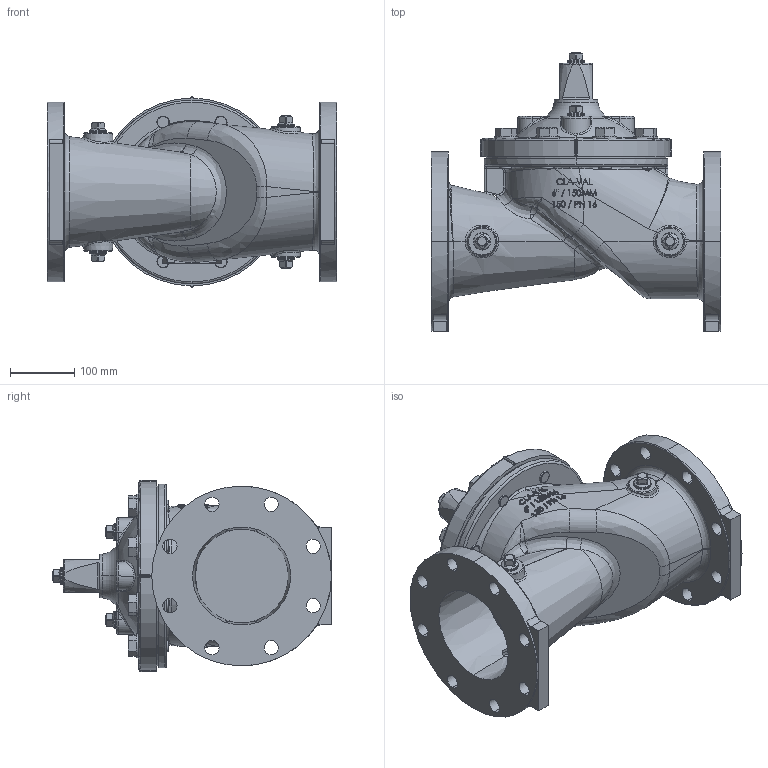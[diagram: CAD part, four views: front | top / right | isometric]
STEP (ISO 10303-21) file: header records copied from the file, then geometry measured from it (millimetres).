
FILE_DESCRIPTION (( 'STEP AP203' ), '1' );
FILE_NAME ('6in 100-20 150AG.STEP', '2018-01-17T17:44:15', ( '' ), ( '' ), 'SwSTEP 2.0', 'SolidWorks 2017', '' );
FILE_SCHEMA (( 'CONFIG_CONTROL_DESIGN' ));
Length unit declared in the file: inch
Products named in the file (6): Bolt .750-10 UNC  (67609)_2   67609-05H; WASHER, PLAIN FLAT FOR .750 SCREW (67753)_.750N   67753-04G; .750 NPT PIPE PLUG (67660)_18-8 SST; 6in 100-20 150AG; 6in Body ReGl150A STD (BLUE)_Default 150 FLAT FACE; 4in Cover (no core)_Default DI
Assembly tree (25 placements, depth 2):
  6in 100-20 150AG
    6in Body ReGl150A STD (BLUE)_Default 150 FLAT FACE
    4in Cover (no core)_Default DI
    Bolt .750-10 UNC  (67609)_2   67609-05H  x8
    WASHER, PLAIN FLAT FOR .750 SCREW (67753)_.750N   67753-04G  x8
    .750 NPT PIPE PLUG (67660)_18-8 SST  x7
Bounding box: 450.85 x 433.7 x 297.64 mm (x, y, z)
Volume: 14000890.8 mm3; surface area: 1055543.2 mm2
Topology: 25 solids, 26 shells, 1923 faces, 4565 edges, 2686 vertices
Faces by surface type: cone 465, plane 424, bspline 391, cylinder 387, torus 171, sphere 85
Entity records: 56359 total; most frequent: CARTESIAN_POINT 30722, ORIENTED_EDGE 5662, DIRECTION 4433, EDGE_CURVE 2831, AXIS2_PLACEMENT_3D 1786, VERTEX_POINT 1765, EDGE_LOOP 1236, FACE_OUTER_BOUND 1118
